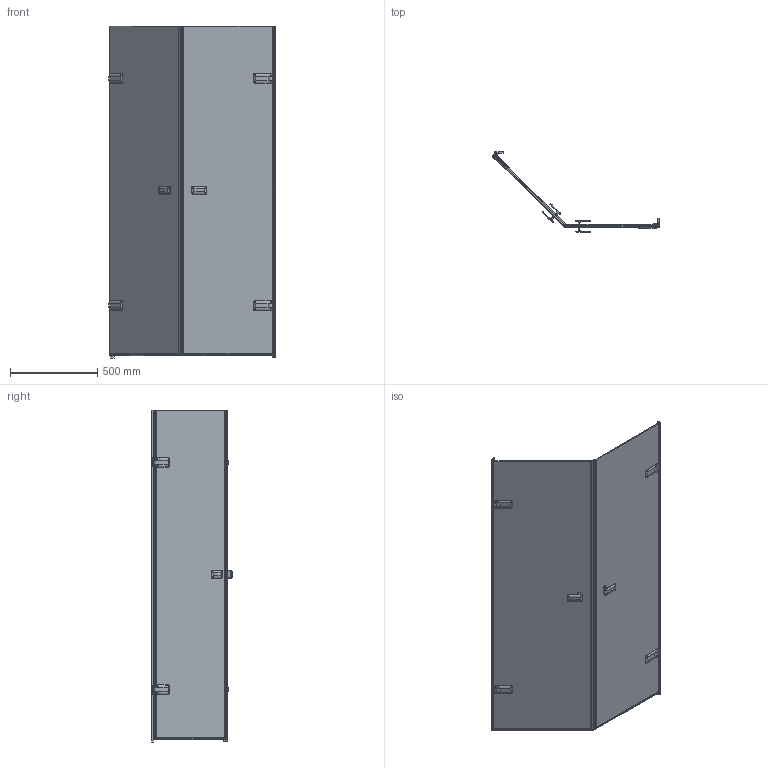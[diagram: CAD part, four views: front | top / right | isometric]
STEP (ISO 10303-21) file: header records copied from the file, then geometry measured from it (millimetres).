
FILE_DESCRIPTION(/* description */ (''),/* implementation_level */ '2;1');
FILE_NAME(/* name */ 'D:\1\TREND DOOR GK-862G135C\TREND DOOR GK-862G135C правая модель\TREND DOOR GK-862G135C ПРАВАЯ-3D.stp',/* time_stamp */ '2021-02-15T19:03:18+03:00',/* author */ ('User'),/* organization */ (''),/* preprocessor_version */ 'ST-DEVELOPER v15.2',/* originating_system */ 'Autodesk Inventor 2014',/* authorisation */ '');
FILE_SCHEMA (('AUTOMOTIVE_DESIGN { 1 0 10303 214 3 1 1 }'));
Length unit declared in the file: millimetre
Products named in the file (1): TREND DOOR GK-862G135C ПРАВАЯ-
3D
Bounding box: 953.69 x 462.32 x 1900 mm (x, y, z)
Volume: 13677573.9 mm3; surface area: 4795036 mm2
Topology: 6 solids, 6 shells, 1158 faces, 3315 edges, 2082 vertices
Faces by surface type: plane 620, cylinder 402, bspline 96, torus 32, sphere 8
Full cylindrical faces by diameter (mm): 12 x4
Entity records: 41996 total; most frequent: CARTESIAN_POINT 10510, ORIENTED_EDGE 6508, DIRECTION 6171, EDGE_CURVE 3251, LINE 2201, VECTOR 2201, VERTEX_POINT 2080, AXIS2_PLACEMENT_3D 1985
